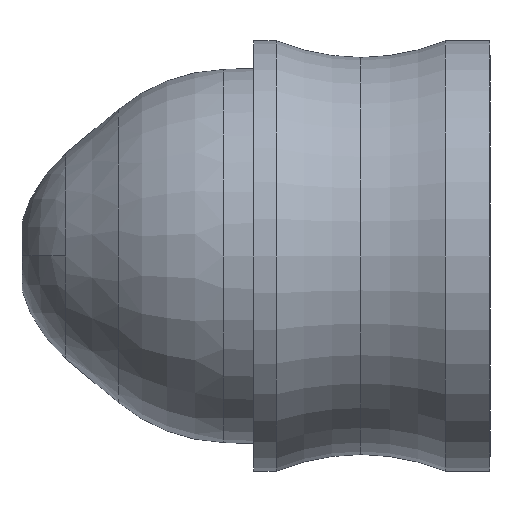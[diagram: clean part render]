
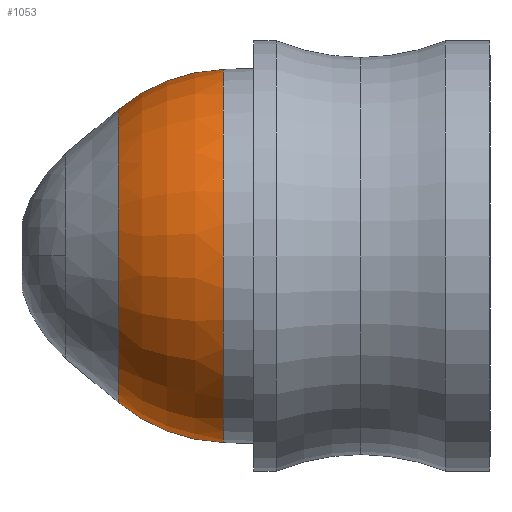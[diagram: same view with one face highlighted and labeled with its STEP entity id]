
A CAD part, front view. The second image highlights one B-rep face of the part: STEP entity #1053.
In plain terms, the highlighted toroidal (fillet/blend) face has major radius 0.288 mm and minor radius 3.9 mm.
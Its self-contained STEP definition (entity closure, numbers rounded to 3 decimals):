
#46 = DIRECTION ( 'NONE',  ( 0., 0., -1. ) ) ;
#62 = AXIS2_PLACEMENT_3D ( 'NONE', #505, #664, #1179 ) ;
#112 = VERTEX_POINT ( 'NONE', #650 ) ;
#182 = DIRECTION ( 'NONE',  ( 0., -1., 0. ) ) ;
#201 = DIRECTION ( 'NONE',  ( 0., 0., -1. ) ) ;
#211 = CARTESIAN_POINT ( 'NONE',  ( -5.847, 0., 0. ) ) ;
#283 = CARTESIAN_POINT ( 'NONE',  ( -5.983, 0., 0. ) ) ;
#385 = AXIS2_PLACEMENT_3D ( 'NONE', #283, #1194, #1023 ) ;
#402 = ORIENTED_EDGE ( 'NONE', *, *, #1662, .F. ) ;
#505 = CARTESIAN_POINT ( 'NONE',  ( -5.847, 0., 0.289 ) ) ;
#577 = FACE_OUTER_BOUND ( 'NONE', #1178, .T. ) ;
#650 = CARTESIAN_POINT ( 'NONE',  ( -5.983, 0., 4.186 ) ) ;
#664 = DIRECTION ( 'NONE',  ( 0., 1., 0. ) ) ;
#727 = CARTESIAN_POINT ( 'NONE',  ( -8.343, 0., 3.285 ) ) ;
#782 = ORIENTED_EDGE ( 'NONE', *, *, #1071, .T. ) ;
#789 = VERTEX_POINT ( 'NONE', #1393 ) ;
#794 = VERTEX_POINT ( 'NONE', #1544 ) ;
#827 = EDGE_CURVE ( 'NONE', #1561, #794, #923, .T. ) ;
#915 = CIRCLE ( 'NONE', #62, 3.9 ) ;
#918 = DIRECTION ( 'NONE',  ( 1., 0., 0. ) ) ;
#923 = CIRCLE ( 'NONE', #1211, 3.285 ) ;
#939 = CIRCLE ( 'NONE', #1681, 3.9 ) ;
#1023 = DIRECTION ( 'NONE',  ( 0., 0., -1. ) ) ;
#1043 = AXIS2_PLACEMENT_3D ( 'NONE', #211, #1105, #201 ) ;
#1053 = ADVANCED_FACE ( 'NONE', ( #577 ), #1484, .T. ) ;
#1071 = EDGE_CURVE ( 'NONE', #794, #789, #939, .T. ) ;
#1105 = DIRECTION ( 'NONE',  ( 1., 0., 0. ) ) ;
#1144 = EDGE_CURVE ( 'NONE', #1561, #112, #915, .T. ) ;
#1178 = EDGE_LOOP ( 'NONE', ( #1481, #1303, #782, #402 ) ) ;
#1179 = DIRECTION ( 'NONE',  ( 0., 0., 1. ) ) ;
#1194 = DIRECTION ( 'NONE',  ( 1., 0., 0. ) ) ;
#1211 = AXIS2_PLACEMENT_3D ( 'NONE', #1308, #918, #1461 ) ;
#1303 = ORIENTED_EDGE ( 'NONE', *, *, #827, .T. ) ;
#1308 = CARTESIAN_POINT ( 'NONE',  ( -8.343, 0., 0. ) ) ;
#1343 = CARTESIAN_POINT ( 'NONE',  ( -5.847, 0., -0.289 ) ) ;
#1393 = CARTESIAN_POINT ( 'NONE',  ( -5.983, 0., -4.186 ) ) ;
#1461 = DIRECTION ( 'NONE',  ( 0., 0., -1. ) ) ;
#1481 = ORIENTED_EDGE ( 'NONE', *, *, #1144, .F. ) ;
#1484 = TOROIDAL_SURFACE ( 'NONE', #1043, 0.289, 3.9 ) ;
#1544 = CARTESIAN_POINT ( 'NONE',  ( -8.343, 0., -3.285 ) ) ;
#1561 = VERTEX_POINT ( 'NONE', #727 ) ;
#1662 = EDGE_CURVE ( 'NONE', #112, #789, #1702, .T. ) ;
#1681 = AXIS2_PLACEMENT_3D ( 'NONE', #1343, #182, #46 ) ;
#1702 = CIRCLE ( 'NONE', #385, 4.186 ) ;
